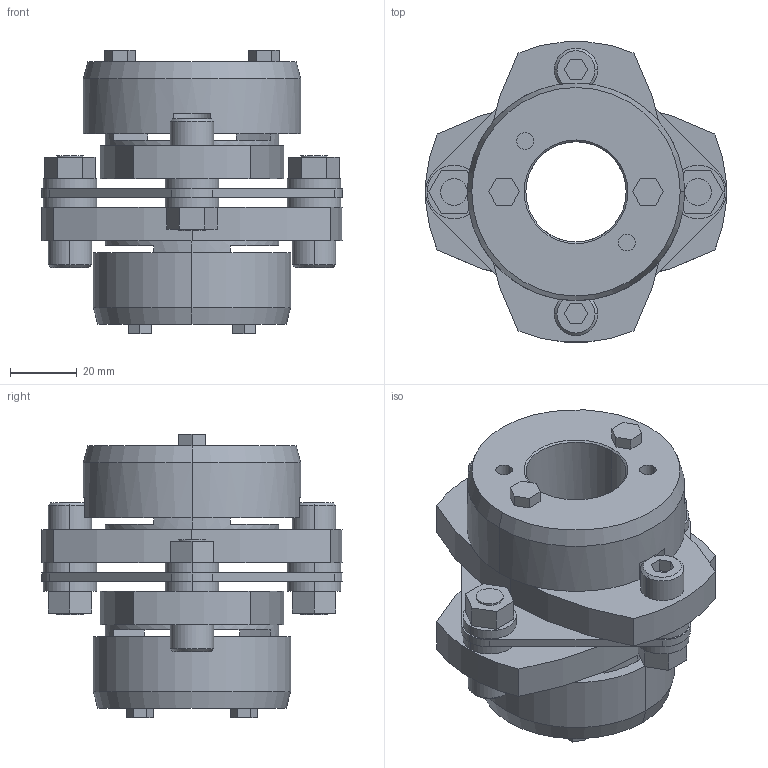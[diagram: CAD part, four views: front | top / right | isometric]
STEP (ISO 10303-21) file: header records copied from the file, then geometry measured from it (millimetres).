
FILE_DESCRIPTION((''),'2;1');
FILE_NAME('LCS-90T7-30×32.stp','2011-09-09T10:16:23',(''),(''),'AutoCAD STEP 2000i','AutoCAD 2000i',', , ');
FILE_SCHEMA(('CONFIG_CONTROL_DESIGN'));
Length unit declared in the file: millimetre
Products named in the file (12): LCS-90T7-30×32; 忣兜1; LC90T7-T032; LC90T7-T030-1; LC90T7-T030; LC90T7-T025-1; LC90T7-T025; LC90T7-T019-1; LC90T7-T019; LC90-B019-1; LC90-B019; LCS90-ITA
Assembly tree (11 placements, depth 2):
  LCS-90T7-30×32
    忣兜1
    LC90T7-T032
    LC90T7-T030-1
    LC90T7-T030
    LC90T7-T025-1
    LC90T7-T025
    LC90T7-T019-1
    LC90T7-T019
    LC90-B019-1
    LC90-B019
    LCS90-ITA
Bounding box: 90 x 89.94 x 84.8 mm (x, y, z)
Volume: 192143.8 mm3; surface area: 52458.4 mm2
Topology: 1 solids, 1 shells, 236 faces, 580 edges, 380 vertices
Faces by surface type: plane 134, cylinder 82, cone 20
Entity records: 7273 total; most frequent: DIRECTION 1280, CARTESIAN_POINT 1208, ORIENTED_EDGE 1160, EDGE_CURVE 580, AXIS2_PLACEMENT_3D 452, VERTEX_POINT 380, VECTOR 376, LINE 376
